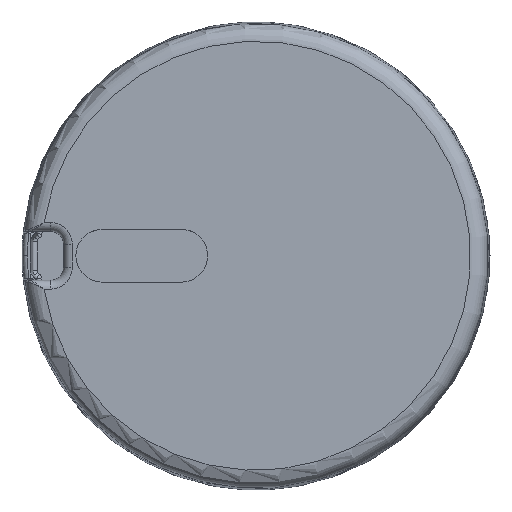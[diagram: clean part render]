
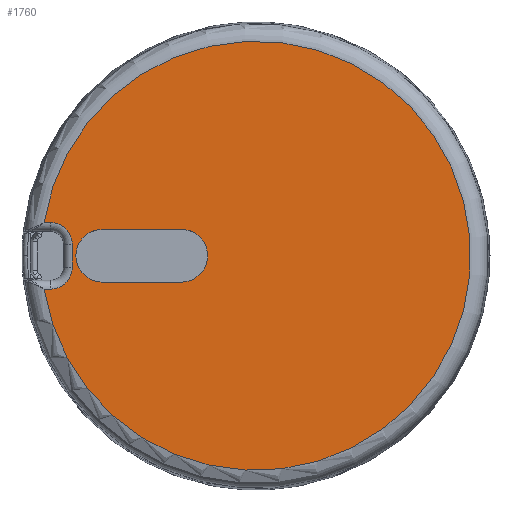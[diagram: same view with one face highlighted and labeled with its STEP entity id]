
A CAD part, top view. The second image highlights one B-rep face of the part: STEP entity #1760.
In plain terms, the highlighted planar face has unit normal (0, 0, 1) as drawn and (0, 0, -1) by its records, which use the part's own axes.
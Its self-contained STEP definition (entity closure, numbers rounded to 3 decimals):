
#820=CARTESIAN_POINT('',(0.,0.,-14.1));
#830=DIRECTION('',(0.,0.,-1.));
#840=DIRECTION('',(-1.,0.,0.));
#850=AXIS2_PLACEMENT_3D('',#820,#830,#840);
#860=PLANE('',#850);
#870=CARTESIAN_POINT('',(23.372,-3.8,-14.1));
#880=DIRECTION('',(1.,0.,0.));
#890=VECTOR('',#880,1.);
#900=LINE('',#870,#890);
#910=CARTESIAN_POINT('',(23.4,-3.8,-14.1));
#920=VERTEX_POINT('',#910);
#930=CARTESIAN_POINT('',(24.116,-3.8,-14.1));
#940=VERTEX_POINT('',#930);
#950=EDGE_CURVE('',#920,#940,#900,.T.);
#960=ORIENTED_EDGE('',*,*,#950,.T.);
#970=CARTESIAN_POINT('',(23.4,-1.3,-14.1));
#980=DIRECTION('',(0.,0.,-1.));
#990=DIRECTION('',(-1.,0.,0.));
#1000=AXIS2_PLACEMENT_3D('',#970,#980,#990);
#1010=CIRCLE('',#1000,2.5);
#1020=CARTESIAN_POINT('',(20.9,-1.3,-14.1));
#1030=VERTEX_POINT('',#1020);
#1040=EDGE_CURVE('',#920,#1030,#1010,.T.);
#1050=ORIENTED_EDGE('',*,*,#1040,.F.);
#1060=CARTESIAN_POINT('',(20.9,1.329,-14.1));
#1070=DIRECTION('',(0.,-1.,0.));
#1080=VECTOR('',#1070,1.);
#1090=LINE('',#1060,#1080);
#1100=CARTESIAN_POINT('',(20.9,1.3,-14.1));
#1110=VERTEX_POINT('',#1100);
#1120=EDGE_CURVE('',#1110,#1030,#1090,.T.);
#1130=ORIENTED_EDGE('',*,*,#1120,.T.);
#1140=CARTESIAN_POINT('',(23.4,1.3,-14.1));
#1150=DIRECTION('',(0.,0.,-1.));
#1160=DIRECTION('',(-1.,0.,0.));
#1170=AXIS2_PLACEMENT_3D('',#1140,#1150,#1160);
#1180=CIRCLE('',#1170,2.5);
#1190=CARTESIAN_POINT('',(23.4,3.8,-14.1));
#1200=VERTEX_POINT('',#1190);
#1210=EDGE_CURVE('',#1110,#1200,#1180,.T.);
#1220=ORIENTED_EDGE('',*,*,#1210,.F.);
#1230=CARTESIAN_POINT('',(25.781,3.8,-14.1));
#1240=DIRECTION('',(-1.,0.,0.));
#1250=VECTOR('',#1240,1.);
#1260=LINE('',#1230,#1250);
#1270=CARTESIAN_POINT('',(24.116,3.8,-14.1));
#1280=VERTEX_POINT('',#1270);
#1290=EDGE_CURVE('',#1280,#1200,#1260,.T.);
#1300=ORIENTED_EDGE('',*,*,#1290,.T.);
#1310=CARTESIAN_POINT('',(0.,0.,-14.1));
#1320=DIRECTION('',(0.,0.,-1.));
#1330=DIRECTION('',(-1.,0.,0.));
#1340=AXIS2_PLACEMENT_3D('',#1310,#1320,#1330);
#1350=CIRCLE('',#1340,24.413);
#1360=EDGE_CURVE('',#940,#1280,#1350,.T.);
#1370=ORIENTED_EDGE('',*,*,#1360,.T.);
#1380=EDGE_LOOP('',(#1370,#1300,#1220,#1130,#1050,#960));
#1390=FACE_OUTER_BOUND('',#1380,.T.);
#1400=CARTESIAN_POINT('',(0.,-3.,-14.1));
#1410=DIRECTION('',(1.,-0.,0.));
#1420=VECTOR('',#1410,1.);
#1430=LINE('',#1400,#1420);
#1440=CARTESIAN_POINT('',(8.5,-3.,-14.1));
#1450=VERTEX_POINT('',#1440);
#1460=CARTESIAN_POINT('',(17.5,-3.,-14.1));
#1470=VERTEX_POINT('',#1460);
#1480=EDGE_CURVE('',#1450,#1470,#1430,.T.);
#1490=ORIENTED_EDGE('',*,*,#1480,.T.);
#1500=CARTESIAN_POINT('',(8.5,0.,-14.1));
#1510=DIRECTION('',(0.,-0.,1.));
#1520=DIRECTION('',(-1.,0.,0.));
#1530=AXIS2_PLACEMENT_3D('',#1500,#1510,#1520);
#1540=CIRCLE('',#1530,3.);
#1550=CARTESIAN_POINT('',(8.5,3.,-14.1));
#1560=VERTEX_POINT('',#1550);
#1570=EDGE_CURVE('',#1560,#1450,#1540,.T.);
#1580=ORIENTED_EDGE('',*,*,#1570,.T.);
#1590=CARTESIAN_POINT('',(0.,3.,-14.1));
#1600=DIRECTION('',(-1.,-0.,0.));
#1610=VECTOR('',#1600,1.);
#1620=LINE('',#1590,#1610);
#1630=CARTESIAN_POINT('',(17.5,3.,-14.1));
#1640=VERTEX_POINT('',#1630);
#1650=EDGE_CURVE('',#1640,#1560,#1620,.T.);
#1660=ORIENTED_EDGE('',*,*,#1650,.T.);
#1670=CARTESIAN_POINT('',(17.5,0.,-14.1));
#1680=DIRECTION('',(0.,-0.,1.));
#1690=DIRECTION('',(0.,-1.,0.));
#1700=AXIS2_PLACEMENT_3D('',#1670,#1680,#1690);
#1710=CIRCLE('',#1700,3.);
#1720=EDGE_CURVE('',#1470,#1640,#1710,.T.);
#1730=ORIENTED_EDGE('',*,*,#1720,.T.);
#1740=EDGE_LOOP('',(#1730,#1660,#1580,#1490));
#1750=FACE_BOUND('',#1740,.T.);
#1760=ADVANCED_FACE('',(#1390,#1750),#860,.T.);
